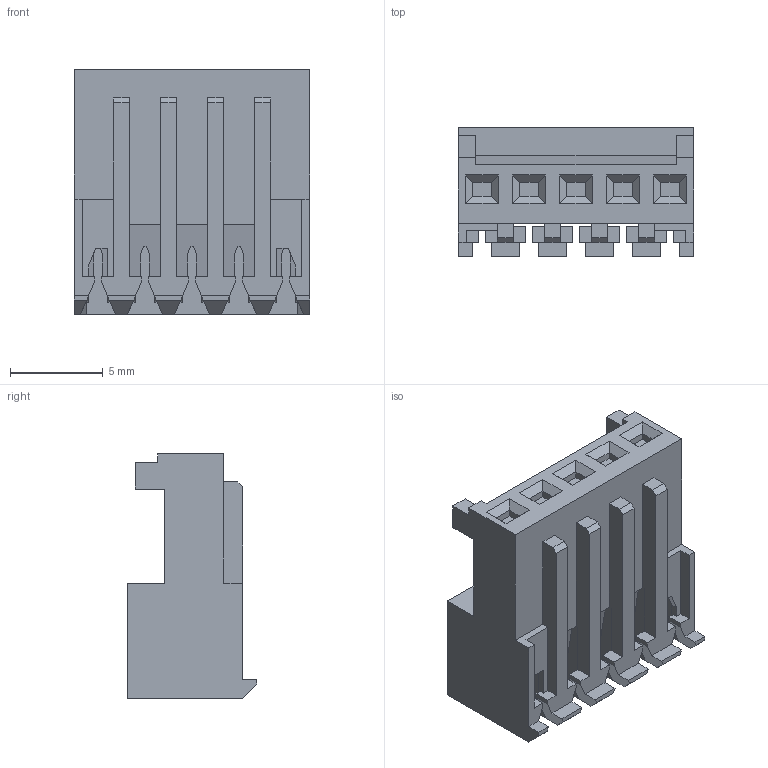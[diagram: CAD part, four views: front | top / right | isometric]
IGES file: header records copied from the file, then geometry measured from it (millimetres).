
Start section: SolidWorks IGES file using analytic representation for surfaces
Global section: file name: C:\Users\kkamath\Desktop\Acessories\16684r1.igs; native system: SolidWorks 2010; preprocessor: SolidWorks 2010; author: kkamath; date: 110711.100158; units: inch
Bounding box: 12.7 x 6.99 x 13.21 mm (x, y, z)
Surface area: 1319.5 mm2 (no closed solid volume)
Topology: 0 solids, 0 shells, 476 faces, 2976 edges, 2976 vertices
Faces by surface type: bspline 436, revolution 40
